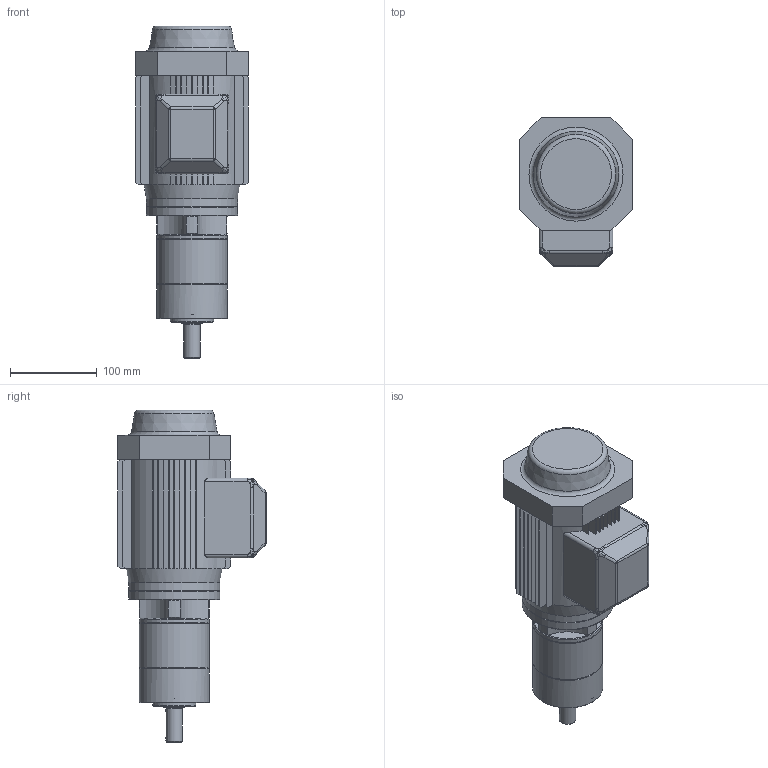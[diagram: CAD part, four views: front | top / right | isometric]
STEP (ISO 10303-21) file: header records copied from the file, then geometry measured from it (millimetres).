
FILE_DESCRIPTION((''),'2;1');
FILE_NAME('Y:\Archivi Inventor\Prog_16\Mep_80\Figurini\FIGURINI PER WEB\2s\Fig_MEP80_2S_71B14.stp','2013-09-26T10:24:05',('tech3'),(''),'Autodesk Inventor 2013','Autodesk Inventor 2013','');
FILE_SCHEMA(('AUTOMOTIVE_DESIGN { 1 0 10303 214 1 1 1 1 }'));
Length unit declared in the file: millimetre
Products named in the file (11): Fig_MEP80_2S; Fig_1608001_B2; Fig_1608002_A0; Fig_1608003_A0; Fig_1608010_A1; 16108011-A1; PARAOLIO 25x40x7; UNI 5931 M 5 x  40; UNI 5931 M 5 x  45; 1608004-C0; motori B14 71
Assembly tree (17 placements, depth 2):
  Fig_MEP80_2S
    Fig_1608001_B2
    Fig_1608002_A0
    Fig_1608003_A0
    Fig_1608010_A1
    16108011-A1  x2
    PARAOLIO 25x40x7
    UNI 5931 M 5 x  40  x4
    UNI 5931 M 5 x  45  x4
    1608004-C0
    motori B14 71
Bounding box: 130 x 171 x 382.7 mm (x, y, z)
Volume: 3091260.3 mm3; surface area: 341846.1 mm2
Topology: 17 solids, 17 shells, 772 faces, 2013 edges, 1241 vertices
Faces by surface type: plane 463, cylinder 179, cone 72, bspline 32, torus 22, sphere 4
Full cylindrical faces by diameter (mm): 4.134 x8, 4.917 x9, 5 x16, 5.5 x24, 6.4 x1, 6.5 x4, 8.5 x8, 9 x8, 14 x1, 18.4 x1, 19 x1, 25 x1, 28.467 x1, 35 x1, 37.5 x1, 40 x2, 42 x2, 50 x1, 58.45 x6, 70 x1, 79.5 x2, 81 x3, 105 x2, 114.4 x1
Entity records: 22392 total; most frequent: CARTESIAN_POINT 5910, DIRECTION 3306, ORIENTED_EDGE 3174, EDGE_CURVE 1587, AXIS2_PLACEMENT_3D 1163, VERTEX_POINT 1043, VECTOR 980, LINE 980
